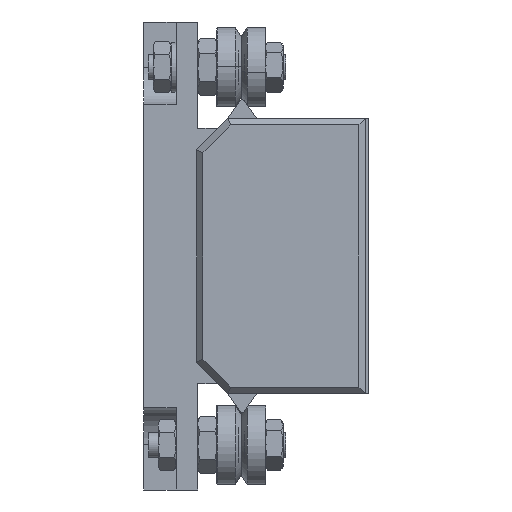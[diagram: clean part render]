
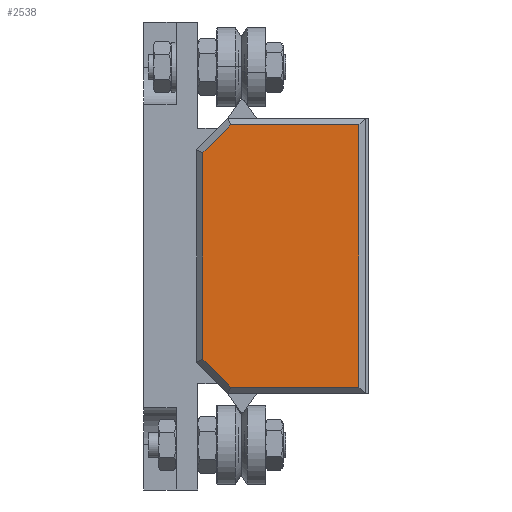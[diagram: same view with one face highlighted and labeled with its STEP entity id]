
A CAD part, left-side view. The second image highlights one B-rep face of the part: STEP entity #2538.
In plain terms, the highlighted planar face has unit normal (-1, 0, 0) as drawn and (0, 0, 1) by its records, which use the part's own axes.
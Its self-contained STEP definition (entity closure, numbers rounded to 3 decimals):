
#283 = DIRECTION ( 'NONE',  ( 0., 1., 0. ) ) ;
#422 = CARTESIAN_POINT ( 'NONE',  ( 16.586, 26., 6. ) ) ;
#763 = LINE ( 'NONE', #4199, #4391 ) ;
#1544 = CARTESIAN_POINT ( 'NONE',  ( 21., 0., 6. ) ) ;
#1957 = EDGE_LOOP ( 'NONE', ( #3216, #9281, #6381, #8472, #9399, #5185 ) ) ;
#2050 = VERTEX_POINT ( 'NONE', #10492 ) ;
#2538 = ADVANCED_FACE ( 'NONE', ( #12027 ), #13370, .F. ) ;
#2628 = EDGE_CURVE ( 'NONE', #2756, #12143, #11821, .T. ) ;
#2756 = VERTEX_POINT ( 'NONE', #7137 ) ;
#2782 = DIRECTION ( 'NONE',  ( -0.707, 0.707, 0. ) ) ;
#2871 = DIRECTION ( 'NONE',  ( -1., 0., 0. ) ) ;
#3216 = ORIENTED_EDGE ( 'NONE', *, *, #2628, .T. ) ;
#3896 = CARTESIAN_POINT ( 'NONE',  ( -21., 1., 6. ) ) ;
#4056 = DIRECTION ( 'NONE',  ( 1., 0., 0. ) ) ;
#4061 = CARTESIAN_POINT ( 'NONE',  ( 0., 0., 6. ) ) ;
#4128 = VERTEX_POINT ( 'NONE', #10504 ) ;
#4181 = VECTOR ( 'NONE', #4584, 1000. ) ;
#4199 = CARTESIAN_POINT ( 'NONE',  ( 16.293, 26.293, 6. ) ) ;
#4391 = VECTOR ( 'NONE', #2782, 1000. ) ;
#4584 = DIRECTION ( 'NONE',  ( -1., 0., 0. ) ) ;
#4654 = CARTESIAN_POINT ( 'NONE',  ( 0., 26., 6. ) ) ;
#4915 = LINE ( 'NONE', #1544, #7006 ) ;
#4923 = CARTESIAN_POINT ( 'NONE',  ( -21.293, 21.293, 6. ) ) ;
#4963 = VECTOR ( 'NONE', #4973, 1000. ) ;
#4973 = DIRECTION ( 'NONE',  ( 0., -1., 0. ) ) ;
#5024 = EDGE_CURVE ( 'NONE', #12440, #4128, #11439, .T. ) ;
#5185 = ORIENTED_EDGE ( 'NONE', *, *, #14592, .T. ) ;
#6381 = ORIENTED_EDGE ( 'NONE', *, *, #12389, .T. ) ;
#6736 = CARTESIAN_POINT ( 'NONE',  ( 21., 1., 6. ) ) ;
#7006 = VECTOR ( 'NONE', #283, 1000. ) ;
#7137 = CARTESIAN_POINT ( 'NONE',  ( -21., 21.586, 6. ) ) ;
#8472 = ORIENTED_EDGE ( 'NONE', *, *, #13390, .T. ) ;
#8599 = DIRECTION ( 'NONE',  ( 0., 0., -1. ) ) ;
#9281 = ORIENTED_EDGE ( 'NONE', *, *, #14504, .T. ) ;
#9388 = DIRECTION ( 'NONE',  ( -0.707, -0.707, 0. ) ) ;
#9399 = ORIENTED_EDGE ( 'NONE', *, *, #5024, .T. ) ;
#9794 = CARTESIAN_POINT ( 'NONE',  ( 0., 1., 6. ) ) ;
#10223 = VECTOR ( 'NONE', #9388, 1000. ) ;
#10492 = CARTESIAN_POINT ( 'NONE',  ( 21., 21.586, 6. ) ) ;
#10504 = CARTESIAN_POINT ( 'NONE',  ( -16.586, 26., 6. ) ) ;
#11161 = AXIS2_PLACEMENT_3D ( 'NONE', #4061, #8599, #2871 ) ;
#11190 = VECTOR ( 'NONE', #4056, 1000. ) ;
#11439 = LINE ( 'NONE', #4654, #4181 ) ;
#11726 = VERTEX_POINT ( 'NONE', #6736 ) ;
#11778 = LINE ( 'NONE', #4923, #10223 ) ;
#11821 = LINE ( 'NONE', #11898, #4963 ) ;
#11898 = CARTESIAN_POINT ( 'NONE',  ( -21., 0., 6. ) ) ;
#12027 = FACE_OUTER_BOUND ( 'NONE', #1957, .T. ) ;
#12143 = VERTEX_POINT ( 'NONE', #3896 ) ;
#12389 = EDGE_CURVE ( 'NONE', #11726, #2050, #4915, .T. ) ;
#12440 = VERTEX_POINT ( 'NONE', #422 ) ;
#13072 = LINE ( 'NONE', #9794, #11190 ) ;
#13370 = PLANE ( 'NONE',  #11161 ) ;
#13390 = EDGE_CURVE ( 'NONE', #2050, #12440, #763, .T. ) ;
#14504 = EDGE_CURVE ( 'NONE', #12143, #11726, #13072, .T. ) ;
#14592 = EDGE_CURVE ( 'NONE', #4128, #2756, #11778, .T. ) ;
